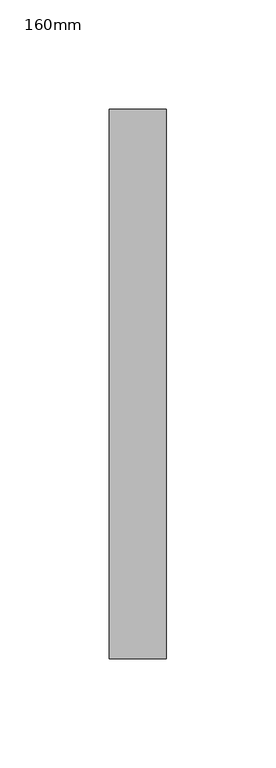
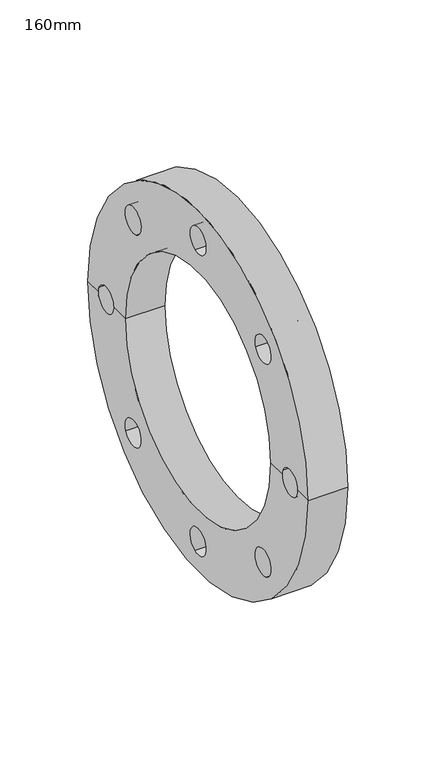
"""IFC4 building model written with IfcOpenShell, lengths in millimetres: pipe fitting geometry, Durapipe_PipeFitting_PVC_BackingFlange : 160mm."""

from ifc_helpers import new_model, si_unit, frame, origin, place, context, project, spatial, polyline, circle_curve, source, transform, mapped, element, save
from ifc_brep_helpers import plane_surface, cylinder_surface, revolved_surface, advanced_brep


def pipe_fitting_160mm_4be33bc1(model_context):
    return source(origin(), model_context, "Body", "AdvancedBrep", [
        advanced_brep(
        [(-13.0, 125.5, 0.0), (13.0, 125.5, 0.0), (13.0, -125.5, 0.0), (-13.0, -125.5, 0.0), (-13.0, -113.599909, 0.0), (-13.0, -112.9136292, -3.4860747), (-13.0, -95.6000766, 0.0), (-13.0, -83.0, 0.0), (-13.0, 83.0, 0.0), (-13.0, 95.6000766, 0.0), (-13.0, 96.2863563, -3.4084011), (-13.0, 113.599909, 0.0), (-13.0, 82.30702, -77.3769658), (-13.0, 65.674632, -70.494839), (-13.0, 3.4860747, -112.9136292), (-13.0, -3.4084011, -96.2863563), (-13.0, -77.3769658, -82.30702), (-13.0, -70.494839, -65.674632), (-13.0, 112.9136292, 3.4860747), (-13.0, -96.2863563, 3.4084011), (-13.0, 77.3769658, 82.30702), (-13.0, 70.494839, 65.674632), (-13.0, -3.4860747, 112.9136292), (-13.0, 3.4084011, 96.2863563), (-13.0, -82.30702, 77.3769658), (-13.0, -65.674632, 70.494839), (13.0, 83.0, 0.0), (13.0, -83.0, 0.0), (13.0, -95.6000766, 0.0), (13.0, -112.9136292, -3.4860747), (13.0, -113.599909, 0.0), (13.0, 113.599909, 0.0), (13.0, 96.2863563, -3.4084011), (13.0, 95.6000766, 0.0), (13.0, 65.674632, -70.494839), (13.0, 82.30702, -77.3769658), (13.0, -3.4084011, -96.2863563), (13.0, 3.4860747, -112.9136292), (13.0, -70.494839, -65.674632), (13.0, -77.3769658, -82.30702), (13.0, 112.9136292, 3.4860747), (13.0, -96.2863563, 3.4084011), (13.0, 70.494839, 65.674632), (13.0, 77.3769658, 82.30702), (13.0, 3.4084011, 96.2863563), (13.0, -3.4860747, 112.9136292), (13.0, -65.674632, 70.494839), (13.0, -82.30702, 77.3769658)],
        [
            (0, 1),
            (1, 2, circle_curve(frame((13.0, 0.0, 0.0), z_axis=(-1.0, 0.0, 0.0), x_axis=(0.0, 1.0, 0.0)), 125.5)),
            (2, 3),
            (3, 0, circle_curve(frame((-13.0, 0.0, 0.0), z_axis=(1.0, 0.0, 0.0), x_axis=(0.0, 1.0, 0.0)), 125.5)),
            (0, 3, circle_curve(frame((-13.0, 0.0, 0.0), z_axis=(1.0, 0.0, 0.0), x_axis=(0.0, 1.0, 0.0)), 125.5)),
            (2, 1, circle_curve(frame((13.0, 0.0, 0.0), z_axis=(-1.0, 0.0, 0.0), x_axis=(0.0, 1.0, 0.0)), 125.5)),
            (3, 4),
            (4, 5, circle_curve(frame((-13.0, -104.5999928, -0.0388368), z_axis=(1.0, 0.0, 0.0), x_axis=(0.0, -0.9237373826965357, -0.38302643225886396)), 9.0)),
            (5, 6, circle_curve(frame((-13.0, -104.5999928, -0.0388368), z_axis=(1.0, 0.0, 0.0), x_axis=(0.0, -0.9237373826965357, -0.38302643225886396)), 9.0)),
            (6, 7),
            (7, 8, circle_curve(frame((-13.0, 0.0, 0.0), z_axis=(1.0, 0.0, 0.0), x_axis=(0.0, 1.0, 0.0)), 83.0)),
            (8, 9),
            (9, 10, circle_curve(frame((-13.0, 104.5999928, 0.0388368), z_axis=(1.0, 0.0, 0.0), x_axis=(0.0, 0.92373738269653, 0.38302643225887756)), 9.0)),
            (10, 11, circle_curve(frame((-13.0, 104.5999928, 0.0388368), z_axis=(1.0, 0.0, 0.0), x_axis=(0.0, 0.92373738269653, 0.38302643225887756)), 9.0)),
            (11, 0),
            (12, 13, circle_curve(frame((-13.0, 73.990826, -73.9359024), z_axis=(1.0, 0.0, 0.0), x_axis=(0.0, 0.9240215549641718, -0.3823403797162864)), 9.0)),
            (13, 12, circle_curve(frame((-13.0, 73.990826, -73.9359024), z_axis=(1.0, 0.0, 0.0), x_axis=(0.0, 0.9240215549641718, -0.3823403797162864)), 9.0)),
            (14, 15, circle_curve(frame((-13.0, 0.0388368, -104.5999928), z_axis=(1.0, 0.0, 0.0), x_axis=(0.0, 0.3830264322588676, -0.9237373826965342)), 9.0)),
            (15, 14, circle_curve(frame((-13.0, 0.0388368, -104.5999928), z_axis=(1.0, 0.0, 0.0), x_axis=(0.0, 0.3830264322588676, -0.9237373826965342)), 9.0)),
            (16, 17, circle_curve(frame((-13.0, -73.9359024, -73.990826), z_axis=(1.0, 0.0, 0.0), x_axis=(0.0, -0.3823403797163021, -0.9240215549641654)), 9.0)),
            (17, 16, circle_curve(frame((-13.0, -73.9359024, -73.990826), z_axis=(1.0, 0.0, 0.0), x_axis=(0.0, -0.3823403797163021, -0.9240215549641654)), 9.0)),
            (11, 18, circle_curve(frame((-13.0, 104.5999928, 0.0388368), z_axis=(1.0, 0.0, 0.0), x_axis=(0.0, 0.92373738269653, 0.38302643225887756)), 9.0)),
            (18, 9, circle_curve(frame((-13.0, 104.5999928, 0.0388368), z_axis=(1.0, 0.0, 0.0), x_axis=(0.0, 0.92373738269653, 0.38302643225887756)), 9.0)),
            (8, 7, circle_curve(frame((-13.0, 0.0, 0.0), z_axis=(1.0, 0.0, 0.0), x_axis=(0.0, 1.0, 0.0)), 83.0)),
            (6, 19, circle_curve(frame((-13.0, -104.5999928, -0.0388368), z_axis=(1.0, 0.0, 0.0), x_axis=(0.0, -0.9237373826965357, -0.38302643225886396)), 9.0)),
            (19, 4, circle_curve(frame((-13.0, -104.5999928, -0.0388368), z_axis=(1.0, 0.0, 0.0), x_axis=(0.0, -0.9237373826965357, -0.38302643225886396)), 9.0)),
            (20, 21, circle_curve(frame((-13.0, 73.9359024, 73.990826), z_axis=(1.0, 0.0, 0.0), x_axis=(0.0, 0.3823403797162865, 0.9240215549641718)), 9.0)),
            (21, 20, circle_curve(frame((-13.0, 73.9359024, 73.990826), z_axis=(1.0, 0.0, 0.0), x_axis=(0.0, 0.3823403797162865, 0.9240215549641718)), 9.0)),
            (22, 23, circle_curve(frame((-13.0, -0.0388368, 104.5999928), z_axis=(1.0, 0.0, 0.0), x_axis=(0.0, -0.38302643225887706, 0.9237373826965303)), 9.0)),
            (23, 22, circle_curve(frame((-13.0, -0.0388368, 104.5999928), z_axis=(1.0, 0.0, 0.0), x_axis=(0.0, -0.38302643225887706, 0.9237373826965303)), 9.0)),
            (24, 25, circle_curve(frame((-13.0, -73.990826, 73.9359024), z_axis=(1.0, 0.0, 0.0), x_axis=(0.0, -0.9240215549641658, 0.38234037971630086)), 9.0)),
            (25, 24, circle_curve(frame((-13.0, -73.990826, 73.9359024), z_axis=(1.0, 0.0, 0.0), x_axis=(0.0, -0.9240215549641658, 0.38234037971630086)), 9.0)),
            (26, 8),
            (7, 27),
            (27, 26, circle_curve(frame((13.0, 0.0, 0.0), z_axis=(1.0, 0.0, 0.0), x_axis=(0.0, 1.0, 0.0)), 83.0)),
            (26, 27, circle_curve(frame((13.0, 0.0, 0.0), z_axis=(1.0, 0.0, 0.0), x_axis=(0.0, 1.0, 0.0)), 83.0)),
            (27, 28),
            (28, 29, circle_curve(frame((13.0, -104.5999928, -0.0388368), z_axis=(-1.0, 0.0, 0.0), x_axis=(0.0, -0.9237373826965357, -0.38302643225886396)), 9.0)),
            (29, 30, circle_curve(frame((13.0, -104.5999928, -0.0388368), z_axis=(-1.0, 0.0, 0.0), x_axis=(0.0, -0.9237373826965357, -0.38302643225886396)), 9.0)),
            (30, 2),
            (1, 31),
            (31, 32, circle_curve(frame((13.0, 104.5999928, 0.0388368), z_axis=(-1.0, 0.0, 0.0), x_axis=(0.0, 0.92373738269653, 0.38302643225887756)), 9.0)),
            (32, 33, circle_curve(frame((13.0, 104.5999928, 0.0388368), z_axis=(-1.0, 0.0, 0.0), x_axis=(0.0, 0.92373738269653, 0.38302643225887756)), 9.0)),
            (33, 26),
            (34, 35, circle_curve(frame((13.0, 73.990826, -73.9359024), z_axis=(-1.0, 0.0, 0.0), x_axis=(0.0, 0.9240215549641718, -0.3823403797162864)), 9.0)),
            (35, 34, circle_curve(frame((13.0, 73.990826, -73.9359024), z_axis=(-1.0, 0.0, 0.0), x_axis=(0.0, 0.9240215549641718, -0.3823403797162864)), 9.0)),
            (36, 37, circle_curve(frame((13.0, 0.0388368, -104.5999928), z_axis=(-1.0, 0.0, 0.0), x_axis=(0.0, 0.3830264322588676, -0.9237373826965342)), 9.0)),
            (37, 36, circle_curve(frame((13.0, 0.0388368, -104.5999928), z_axis=(-1.0, 0.0, 0.0), x_axis=(0.0, 0.3830264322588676, -0.9237373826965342)), 9.0)),
            (38, 39, circle_curve(frame((13.0, -73.9359024, -73.990826), z_axis=(-1.0, 0.0, 0.0), x_axis=(0.0, -0.3823403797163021, -0.9240215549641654)), 9.0)),
            (39, 38, circle_curve(frame((13.0, -73.9359024, -73.990826), z_axis=(-1.0, 0.0, 0.0), x_axis=(0.0, -0.3823403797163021, -0.9240215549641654)), 9.0)),
            (33, 40, circle_curve(frame((13.0, 104.5999928, 0.0388368), z_axis=(-1.0, 0.0, 0.0), x_axis=(0.0, 0.92373738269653, 0.38302643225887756)), 9.0)),
            (40, 31, circle_curve(frame((13.0, 104.5999928, 0.0388368), z_axis=(-1.0, 0.0, 0.0), x_axis=(0.0, 0.92373738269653, 0.38302643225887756)), 9.0)),
            (30, 41, circle_curve(frame((13.0, -104.5999928, -0.0388368), z_axis=(-1.0, 0.0, 0.0), x_axis=(0.0, -0.9237373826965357, -0.38302643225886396)), 9.0)),
            (41, 28, circle_curve(frame((13.0, -104.5999928, -0.0388368), z_axis=(-1.0, 0.0, 0.0), x_axis=(0.0, -0.9237373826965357, -0.38302643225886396)), 9.0)),
            (42, 43, circle_curve(frame((13.0, 73.9359024, 73.990826), z_axis=(-1.0, 0.0, 0.0), x_axis=(0.0, 0.3823403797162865, 0.9240215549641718)), 9.0)),
            (43, 42, circle_curve(frame((13.0, 73.9359024, 73.990826), z_axis=(-1.0, 0.0, 0.0), x_axis=(0.0, 0.3823403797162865, 0.9240215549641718)), 9.0)),
            (44, 45, circle_curve(frame((13.0, -0.0388368, 104.5999928), z_axis=(-1.0, 0.0, 0.0), x_axis=(0.0, -0.38302643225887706, 0.9237373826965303)), 9.0)),
            (45, 44, circle_curve(frame((13.0, -0.0388368, 104.5999928), z_axis=(-1.0, 0.0, 0.0), x_axis=(0.0, -0.38302643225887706, 0.9237373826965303)), 9.0)),
            (46, 47, circle_curve(frame((13.0, -73.990826, 73.9359024), z_axis=(-1.0, 0.0, 0.0), x_axis=(0.0, -0.9240215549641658, 0.38234037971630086)), 9.0)),
            (47, 46, circle_curve(frame((13.0, -73.990826, 73.9359024), z_axis=(-1.0, 0.0, 0.0), x_axis=(0.0, -0.9240215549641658, 0.38234037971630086)), 9.0)),
            (36, 15),
            (14, 37),
            (34, 13),
            (12, 35),
            (32, 10),
            (18, 40),
            (42, 21),
            (20, 43),
            (44, 23),
            (22, 45),
            (46, 25),
            (24, 47),
            (41, 19),
            (5, 29),
            (38, 17),
            (16, 39),
        ],
        [
            cylinder_surface(frame((-31.7738734, 0.0, 0.0), z_axis=(-1.0, 0.0, 0.0), x_axis=(0.0, 1.0, 0.0)), 125.5),
            plane_surface(frame((-13.0, 0.0, 0.0), z_axis=(-1.0, 0.0, 0.0), x_axis=(0.0, 1.0, 0.0))),
            revolved_surface(polyline([(-13.0, 83.0, 0.0), (13.0, 83.0, 0.0)]), (-31.7738734, 0.0, 0.0), (-1.0, 0.0, 0.0)),
            plane_surface(frame((13.0, 0.0, 0.0), z_axis=(1.0, 0.0, 0.0), x_axis=(0.0, 1.0, 0.0))),
            revolved_surface(polyline([(-13.000000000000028, 3.4860746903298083, -112.9136292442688), (12.999999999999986, 3.4860746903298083, -112.9136292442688)]), (37.0, 0.0388368, -104.5999928), (-1.0000000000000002, 0.0, 0.0)),
            revolved_surface(polyline([(-13.0, 82.30701999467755, -77.37696581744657), (13.0, 82.30701999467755, -77.37696581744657)]), (37.0, 73.990826, -73.9359024), (-1.0, 0.0, 0.0)),
            revolved_surface(polyline([(-13.0, 112.91362924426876, 3.486074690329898), (13.0, 112.91362924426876, 3.486074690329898)]), (37.0, 104.5999928, 0.0388368), (-1.0, 0.0, 0.0)),
            revolved_surface(polyline([(-13.000000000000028, 77.37696581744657, 82.30701999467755), (12.999999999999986, 77.37696581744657, 82.30701999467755)]), (37.0, 73.9359024, 73.990826), (-1.0000000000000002, 0.0, 0.0)),
            revolved_surface(polyline([(-13.000000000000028, -3.4860746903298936, 112.91362924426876), (12.999999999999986, -3.4860746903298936, 112.91362924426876)]), (37.0, -0.0388368, 104.5999928), (-1.0000000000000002, 0.0, 0.0)),
            revolved_surface(polyline([(-13.0, -82.30701999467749, 77.37696581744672), (13.0, -82.30701999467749, 77.37696581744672)]), (37.0, -73.990826, 73.9359024), (-1.0, 0.0, 0.0)),
            revolved_surface(polyline([(-13.000000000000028, -112.91362924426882, -3.4860746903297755), (12.999999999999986, -112.91362924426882, -3.4860746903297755)]), (37.0, -104.5999928, -0.0388368), (-1.0000000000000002, 0.0, 0.0)),
            revolved_surface(polyline([(-13.000000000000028, -77.37696581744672, -82.30701999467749), (12.999999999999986, -77.37696581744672, -82.30701999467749)]), (37.0, -73.9359024, -73.990826), (-1.0000000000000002, 0.0, 0.0)),
        ],
        [
            (0, [[1, 2, 3, 4]]),
            (0, [[-1, 5, -3, 6]]),
            (1, [[-4, 7, 8, 9, 10, 11, 12, 13, 14, 15], [16, 17], [18, 19], [20, 21]]),
            (1, [[-5, -15, 22, 23, -12, 24, -10, 25, 26, -7], [27, 28], [29, 30], [31, 32]]),
            (2, [[33, -11, 34, 35]]),
            (2, [[-33, 36, -34, -24]]),
            (3, [[-35, 37, 38, 39, 40, -2, 41, 42, 43, 44], [45, 46], [47, 48], [49, 50]]),
            (3, [[-36, -44, 51, 52, -41, -6, -40, 53, 54, -37], [55, 56], [57, 58], [59, 60]]),
            (4, [[61, -18, 62, -47]]),
            (4, [[-61, -48, -62, -19]]),
            (5, [[63, -16, 64, -45]]),
            (5, [[-63, -46, -64, -17]]),
            (6, [[65, -13, -23, 66, -51, -43]]),
            (6, [[-65, -42, -52, -66, -22, -14]]),
            (7, [[67, -27, 68, -55]]),
            (7, [[-67, -56, -68, -28]]),
            (8, [[69, -29, 70, -57]]),
            (8, [[-69, -58, -70, -30]]),
            (9, [[71, -31, 72, -59]]),
            (9, [[-71, -60, -72, -32]]),
            (10, [[73, -25, -9, 74, -38, -54]]),
            (10, [[-73, -53, -39, -74, -8, -26]]),
            (11, [[75, -20, 76, -49]]),
            (11, [[-75, -50, -76, -21]]),
        ],
    ),
    ])


if __name__ == "__main__":
    model = new_model("IFC4")
    model_context = context("Model", 3, world=origin())
    ifc_project = project(units=[si_unit("LENGTHUNIT", "METRE", prefix="MILLI")], contexts=[model_context])
    site = spatial("IfcSite", under=ifc_project)
    building = spatial("IfcBuilding", under=site)
    placement = place(None, origin())
    pipe_fitting_160mm_shape = pipe_fitting_160mm_4be33bc1(model_context)
    element("IfcPipeFitting", 1, ObjectType="Durapipe_PipeFitting_PVC_BackingFlange : 160mm", at=placement, inside=building, context=model_context, shape_type="MappedRepresentation", body=[
        mapped(pipe_fitting_160mm_shape, transform((0.0, 0.0, 0.0), x_axis=(1.0, 0.0, 0.0), y_axis=(0.0, 1.0, 0.0), z_axis=(0.0, 0.0, 1.0))),
    ])
    save(model, "model.ifc")
